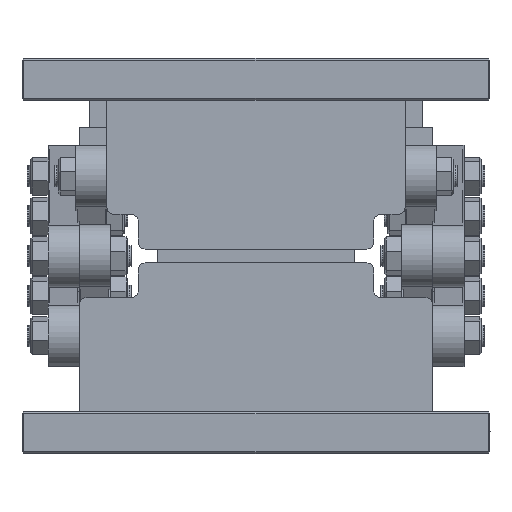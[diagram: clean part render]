
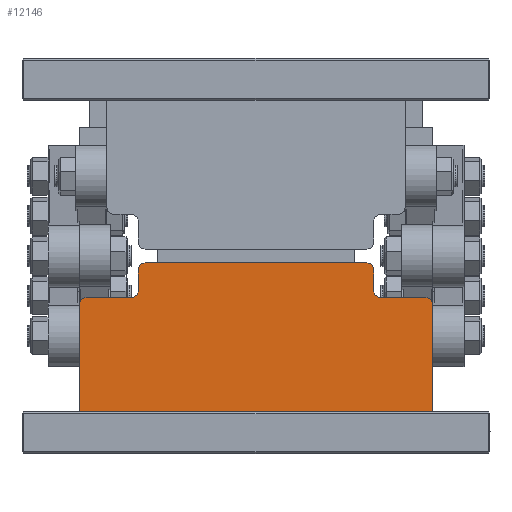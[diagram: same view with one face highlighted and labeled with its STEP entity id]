
A CAD part, left-side view. The second image highlights one B-rep face of the part: STEP entity #12146.
In plain terms, the highlighted planar face has unit normal (-1, 0, 0) as drawn and (0, 0, -1) by its records, which use the part's own axes.
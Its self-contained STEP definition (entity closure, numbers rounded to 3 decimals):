
#416 = VERTEX_POINT ( 'NONE', #14873 ) ;
#420 = LINE ( 'NONE', #36763, #5599 ) ;
#449 = CIRCLE ( 'NONE', #13778, 2. ) ;
#765 = AXIS2_PLACEMENT_3D ( 'NONE', #5332, #32532, #26720 ) ;
#893 = CARTESIAN_POINT ( 'NONE',  ( -36., 35., 0. ) ) ;
#1410 = CARTESIAN_POINT ( 'NONE',  ( 34., 41., 0. ) ) ;
#2009 = CARTESIAN_POINT ( 'NONE',  ( -34., 43., 0. ) ) ;
#3040 = CARTESIAN_POINT ( 'NONE',  ( -36., 33., 0. ) ) ;
#3422 = CIRCLE ( 'NONE', #11386, 2. ) ;
#3670 = ORIENTED_EDGE ( 'NONE', *, *, #9743, .F. ) ;
#4093 = LINE ( 'NONE', #28927, #35685 ) ;
#4173 = EDGE_CURVE ( 'NONE', #23722, #7087, #449, .T. ) ;
#4522 = ORIENTED_EDGE ( 'NONE', *, *, #4173, .T. ) ;
#4553 = LINE ( 'NONE', #10390, #27490 ) ;
#4814 = CARTESIAN_POINT ( 'NONE',  ( -34., 43., 0. ) ) ;
#4880 = EDGE_CURVE ( 'NONE', #14933, #30639, #12669, .T. ) ;
#5332 = CARTESIAN_POINT ( 'NONE',  ( 0., 0., 0. ) ) ;
#5484 = VERTEX_POINT ( 'NONE', #20416 ) ;
#5599 = VECTOR ( 'NONE', #24683, 1000. ) ;
#5996 = FACE_OUTER_BOUND ( 'NONE', #26202, .T. ) ;
#6042 = CIRCLE ( 'NONE', #26401, 2. ) ;
#6817 = LINE ( 'NONE', #2009, #13880 ) ;
#7087 = VERTEX_POINT ( 'NONE', #34436 ) ;
#8276 = CARTESIAN_POINT ( 'NONE',  ( -51., 0., 0. ) ) ;
#8536 = CARTESIAN_POINT ( 'NONE',  ( -34., 41., 0. ) ) ;
#8753 = EDGE_CURVE ( 'NONE', #23722, #13598, #6817, .T. ) ;
#8778 = ORIENTED_EDGE ( 'NONE', *, *, #10584, .F. ) ;
#8941 = DIRECTION ( 'NONE',  ( 0., 0., 1. ) ) ;
#9723 = DIRECTION ( 'NONE',  ( 1., 0., 0. ) ) ;
#9743 = EDGE_CURVE ( 'NONE', #13927, #12809, #16198, .T. ) ;
#10118 = DIRECTION ( 'NONE',  ( 0., 0., 1. ) ) ;
#10276 = EDGE_CURVE ( 'NONE', #13927, #416, #25480, .T. ) ;
#10381 = CARTESIAN_POINT ( 'NONE',  ( 51., 0., 0. ) ) ;
#10390 = CARTESIAN_POINT ( 'NONE',  ( -34., 33., 0. ) ) ;
#10584 = EDGE_CURVE ( 'NONE', #26028, #416, #4553, .T. ) ;
#10692 = ORIENTED_EDGE ( 'NONE', *, *, #12642, .F. ) ;
#11386 = AXIS2_PLACEMENT_3D ( 'NONE', #893, #10118, #9723 ) ;
#11538 = LINE ( 'NONE', #28450, #18630 ) ;
#11925 = DIRECTION ( 'NONE',  ( 0., 0., -1. ) ) ;
#12146 = ADVANCED_FACE ( 'NONE', ( #5996 ), #14414, .F. ) ;
#12351 = CARTESIAN_POINT ( 'NONE',  ( 36., 35., 0. ) ) ;
#12352 = EDGE_CURVE ( 'NONE', #32732, #18753, #6042, .T. ) ;
#12561 = ORIENTED_EDGE ( 'NONE', *, *, #33606, .F. ) ;
#12642 = EDGE_CURVE ( 'NONE', #16573, #30639, #4093, .T. ) ;
#12669 = CIRCLE ( 'NONE', #22316, 2. ) ;
#12809 = VERTEX_POINT ( 'NONE', #30451 ) ;
#13598 = VERTEX_POINT ( 'NONE', #34733 ) ;
#13778 = AXIS2_PLACEMENT_3D ( 'NONE', #27559, #15821, #15411 ) ;
#13880 = VECTOR ( 'NONE', #25928, 1000. ) ;
#13927 = VERTEX_POINT ( 'NONE', #22967 ) ;
#14414 = PLANE ( 'NONE',  #765 ) ;
#14873 = CARTESIAN_POINT ( 'NONE',  ( -49., 33., 0. ) ) ;
#14933 = VERTEX_POINT ( 'NONE', #19281 ) ;
#15411 = DIRECTION ( 'NONE',  ( 1., 0., 0. ) ) ;
#15821 = DIRECTION ( 'NONE',  ( 0., 0., -1. ) ) ;
#15958 = CARTESIAN_POINT ( 'NONE',  ( 51., 31., 0. ) ) ;
#16198 = LINE ( 'NONE', #31792, #33096 ) ;
#16573 = VERTEX_POINT ( 'NONE', #10381 ) ;
#16693 = DIRECTION ( 'NONE',  ( -1., 0., 0. ) ) ;
#16755 = VECTOR ( 'NONE', #16983, 1000. ) ;
#16983 = DIRECTION ( 'NONE',  ( -1., 0., 0. ) ) ;
#17016 = DIRECTION ( 'NONE',  ( 1., 0., 0. ) ) ;
#17609 = CARTESIAN_POINT ( 'NONE',  ( -49., 31., 0. ) ) ;
#18220 = LINE ( 'NONE', #8276, #22364 ) ;
#18465 = CARTESIAN_POINT ( 'NONE',  ( 49., 31., 0. ) ) ;
#18630 = VECTOR ( 'NONE', #21789, 1000. ) ;
#18753 = VERTEX_POINT ( 'NONE', #1410 ) ;
#19162 = CIRCLE ( 'NONE', #27398, 2. ) ;
#19281 = CARTESIAN_POINT ( 'NONE',  ( 49., 33., 0. ) ) ;
#19516 = ORIENTED_EDGE ( 'NONE', *, *, #29001, .F. ) ;
#20416 = CARTESIAN_POINT ( 'NONE',  ( 34., 35., 0. ) ) ;
#20789 = EDGE_CURVE ( 'NONE', #5484, #18753, #11538, .T. ) ;
#20966 = EDGE_CURVE ( 'NONE', #32732, #7087, #26995, .T. ) ;
#21032 = ORIENTED_EDGE ( 'NONE', *, *, #20789, .F. ) ;
#21560 = ORIENTED_EDGE ( 'NONE', *, *, #8753, .F. ) ;
#21626 = CARTESIAN_POINT ( 'NONE',  ( 32., 43., 0. ) ) ;
#21789 = DIRECTION ( 'NONE',  ( 0., 1., 0. ) ) ;
#22316 = AXIS2_PLACEMENT_3D ( 'NONE', #18465, #30227, #33288 ) ;
#22364 = VECTOR ( 'NONE', #17016, 1000. ) ;
#22967 = CARTESIAN_POINT ( 'NONE',  ( -51., 31., 0. ) ) ;
#23039 = DIRECTION ( 'NONE',  ( 0., 1., 0. ) ) ;
#23722 = VERTEX_POINT ( 'NONE', #8536 ) ;
#24683 = DIRECTION ( 'NONE',  ( -1., 0., 0. ) ) ;
#25173 = VERTEX_POINT ( 'NONE', #32193 ) ;
#25460 = ORIENTED_EDGE ( 'NONE', *, *, #31027, .T. ) ;
#25480 = CIRCLE ( 'NONE', #29744, 2. ) ;
#25928 = DIRECTION ( 'NONE',  ( 0., -1., 0. ) ) ;
#26028 = VERTEX_POINT ( 'NONE', #3040 ) ;
#26202 = EDGE_LOOP ( 'NONE', ( #21560, #4522, #30568, #30099, #21032, #25460, #19516, #38686, #10692, #12561, #3670, #37795, #8778, #37722 ) ) ;
#26401 = AXIS2_PLACEMENT_3D ( 'NONE', #29883, #11925, #32946 ) ;
#26720 = DIRECTION ( 'NONE',  ( 1., 0., 0. ) ) ;
#26995 = LINE ( 'NONE', #4814, #16755 ) ;
#27398 = AXIS2_PLACEMENT_3D ( 'NONE', #12351, #8941, #36329 ) ;
#27490 = VECTOR ( 'NONE', #16693, 1000. ) ;
#27559 = CARTESIAN_POINT ( 'NONE',  ( -32., 41., 0. ) ) ;
#28450 = CARTESIAN_POINT ( 'NONE',  ( 34., 43., 0. ) ) ;
#28927 = CARTESIAN_POINT ( 'NONE',  ( 51., 33., 0. ) ) ;
#29001 = EDGE_CURVE ( 'NONE', #14933, #25173, #420, .T. ) ;
#29744 = AXIS2_PLACEMENT_3D ( 'NONE', #17609, #38657, #32261 ) ;
#29883 = CARTESIAN_POINT ( 'NONE',  ( 32., 41., 0. ) ) ;
#30099 = ORIENTED_EDGE ( 'NONE', *, *, #12352, .T. ) ;
#30227 = DIRECTION ( 'NONE',  ( 0., 0., -1. ) ) ;
#30451 = CARTESIAN_POINT ( 'NONE',  ( -51., 0., 0. ) ) ;
#30568 = ORIENTED_EDGE ( 'NONE', *, *, #20966, .F. ) ;
#30639 = VERTEX_POINT ( 'NONE', #15958 ) ;
#31027 = EDGE_CURVE ( 'NONE', #5484, #25173, #19162, .T. ) ;
#31792 = CARTESIAN_POINT ( 'NONE',  ( -51., 33., 0. ) ) ;
#32193 = CARTESIAN_POINT ( 'NONE',  ( 36., 33., 0. ) ) ;
#32261 = DIRECTION ( 'NONE',  ( 1., 0., 0. ) ) ;
#32532 = DIRECTION ( 'NONE',  ( 0., 0., 1. ) ) ;
#32732 = VERTEX_POINT ( 'NONE', #21626 ) ;
#32946 = DIRECTION ( 'NONE',  ( 1., 0., 0. ) ) ;
#33096 = VECTOR ( 'NONE', #34461, 1000. ) ;
#33288 = DIRECTION ( 'NONE',  ( 1., 0., 0. ) ) ;
#33606 = EDGE_CURVE ( 'NONE', #12809, #16573, #18220, .T. ) ;
#33980 = EDGE_CURVE ( 'NONE', #26028, #13598, #3422, .T. ) ;
#34436 = CARTESIAN_POINT ( 'NONE',  ( -32., 43., 0. ) ) ;
#34461 = DIRECTION ( 'NONE',  ( 0., -1., 0. ) ) ;
#34733 = CARTESIAN_POINT ( 'NONE',  ( -34., 35., 0. ) ) ;
#35685 = VECTOR ( 'NONE', #23039, 1000. ) ;
#36329 = DIRECTION ( 'NONE',  ( 1., 0., 0. ) ) ;
#36763 = CARTESIAN_POINT ( 'NONE',  ( 34., 33., 0. ) ) ;
#37722 = ORIENTED_EDGE ( 'NONE', *, *, #33980, .T. ) ;
#37795 = ORIENTED_EDGE ( 'NONE', *, *, #10276, .T. ) ;
#38657 = DIRECTION ( 'NONE',  ( 0., 0., -1. ) ) ;
#38686 = ORIENTED_EDGE ( 'NONE', *, *, #4880, .T. ) ;
